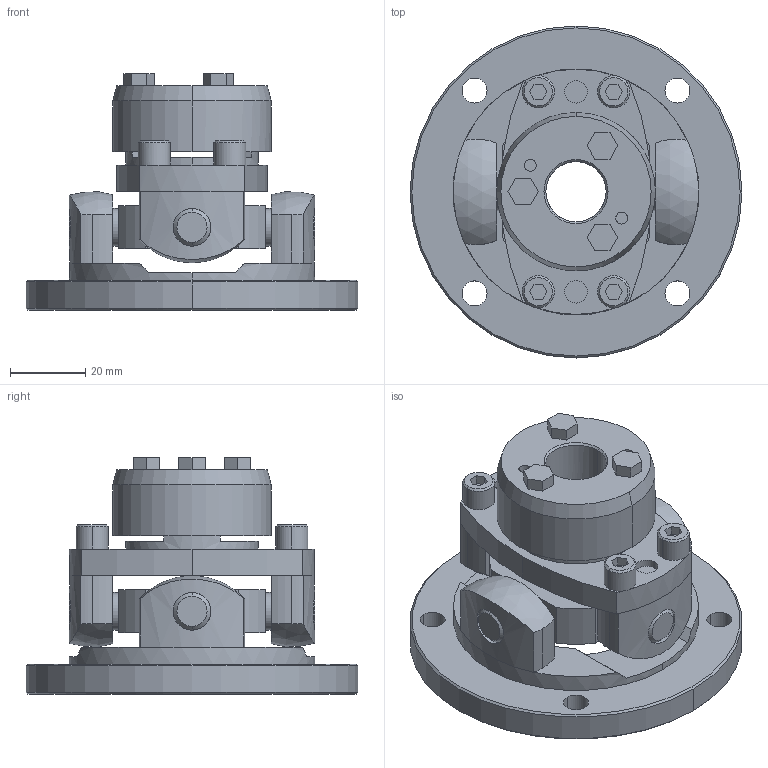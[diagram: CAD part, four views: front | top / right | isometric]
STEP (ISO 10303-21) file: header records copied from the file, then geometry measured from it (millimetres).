
FILE_DESCRIPTION((''),'2;1');
FILE_NAME('UCNF-65T7-16.stp','2011-09-17T16:12:23',(''),(''),'AutoCAD STEP 2000i','AutoCAD 2000i',', , ');
FILE_SCHEMA(('CONFIG_CONTROL_DESIGN'));
Length unit declared in the file: millimetre
Products named in the file (6): UCNF-65T7-15; 忣兜1; UCNF-6502; UCN65T7-T015-1; UCN65T7-T015; UCN65-SEN
Assembly tree (5 placements, depth 2):
  UCNF-65T7-15
    忣兜1
    UCNF-6502
    UCN65T7-T015-1
    UCN65T7-T015
    UCN65-SEN
Bounding box: 88 x 88 x 62.7 mm (x, y, z)
Volume: 112028.2 mm3; surface area: 37021.9 mm2
Topology: 1 solids, 1 shells, 279 faces, 693 edges, 449 vertices
Faces by surface type: plane 129, cylinder 108, cone 38, sphere 4
Entity records: 8919 total; most frequent: CARTESIAN_POINT 1815, DIRECTION 1550, ORIENTED_EDGE 1386, EDGE_CURVE 693, AXIS2_PLACEMENT_3D 588, VERTEX_POINT 449, VECTOR 374, LINE 374
